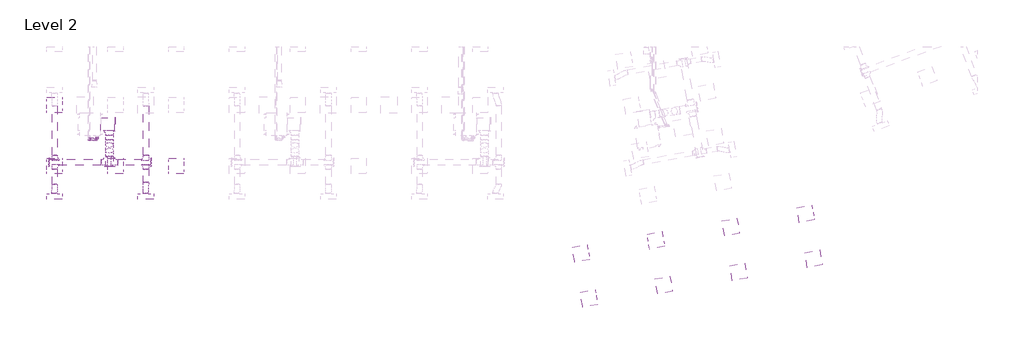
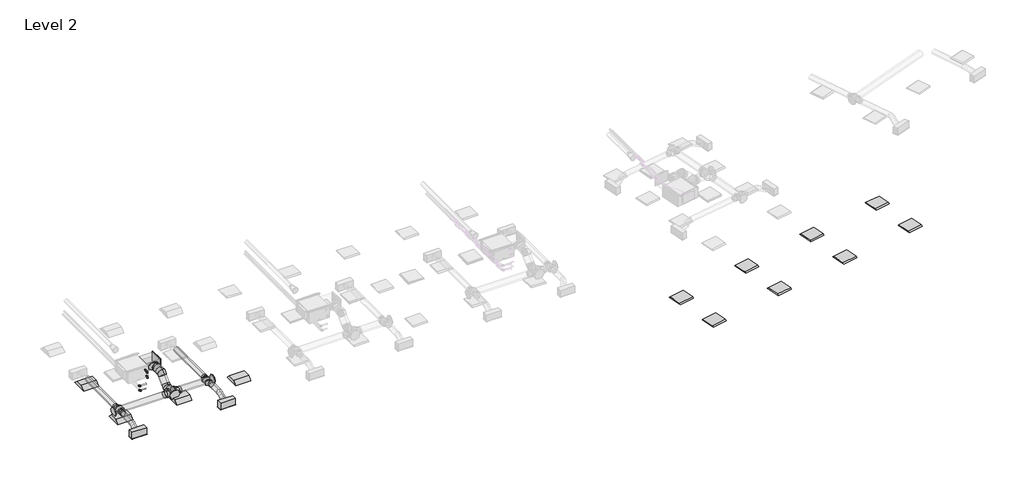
# One storey, part 1 of 26: 13 duct fittings, 12 duct segments, 12 light fixtures, 6 pipe fittings, 4 pipe segments, 2 air terminals.
"""IFC4 building model written with IfcOpenShell, lengths in millimetres."""

from ifc_helpers import new_model, si_unit, point, frame, frame_2d, origin, place, context, project, spatial, polyline, circle_curve, ellipse_curve, trimmed, segment, composite_curve, outline, extrude, transform, mapped, element, save
from ifc_brep_helpers import plane_surface, cylinder_surface, advanced_brep
from components import supply_diffuser_with_plenum_linear_slot_hosted_2b730595, dw144_rectangular_blank_end_standard_8fde7d16, dw144_round_blank_end_standard_f82b0856, dw144_round_blank_end_standard_9aa061e7, dw144_round_segmented_bend_slip_joint_standard_8b80c5ae, dw144_round_shoe_branch_slip_joint1_standard_2_15a2edd8, dw144_round_shoe_branch_slip_joint1_standard_2_559552f4, dw144_round_shoe_branch_slip_joint1_standard_2_7ba9e4ed, dw144_round_shoe_branch_slip_joint1_standard_2_67b64720, light_fixture_1c7c1157, light_fixture_b730b5ca, plain_recessed_lighting_fixture_2x2_277_de26a1e5, elbow_threaded_gmi_standard_b4aa7741, socket_reducing_threaded_gmi_standard_0a4076b8

model = new_model("IFC4")

# Units and contexts
model_context = context("Model", 3, world=origin())
ifc_project = project(units=[si_unit("LENGTHUNIT", "METRE", prefix="MILLI")], contexts=[model_context])

# Site, building, storey
site = spatial("IfcSite", under=ifc_project)
building = spatial("IfcBuilding", under=site)
storey = spatial("IfcBuildingStorey", under=building, Name="Level 2", Elevation=7800.0)

# Air terminals
placement = place(None, origin())
supply_diffuser_with_plenum_linear_slot_hosted_shape = supply_diffuser_with_plenum_linear_slot_hosted_2b730595(model_context)
element("IfcAirTerminal", 1, ObjectType="Supply Diffuser with Plenum - Linear Slot - Hosted : 24\" x 8\"-200 In Inlet  4-Slot", at=placement, inside=storey, context=model_context, shape_type="MappedRepresentation", body=[
    mapped(supply_diffuser_with_plenum_linear_slot_hosted_shape, transform((9162.2000027, 963.2000004, 10600.0), x_axis=(1.0, 0.0, 0.0), y_axis=(0.0, -1.0, 0.0), z_axis=(0.0, 0.0, -1.0))),
])
element("IfcAirTerminal", 2, ObjectType="Supply Diffuser with Plenum - Linear Slot - Hosted : 24\" x 8\"-200 In Inlet  4-Slot", at=placement, inside=storey, context=model_context, shape_type="MappedRepresentation", body=[
    mapped(supply_diffuser_with_plenum_linear_slot_hosted_shape, transform((12762.2000027, 963.2000004, 10600.0), x_axis=(1.0, 0.0, 0.0), y_axis=(0.0, -1.0, 0.0), z_axis=(0.0, 0.0, -1.0))),
])

# Duct fittings
dw144_rectangular_blank_end_standard_shape = dw144_rectangular_blank_end_standard_8fde7d16(model_context)
element("IfcDuctFitting", 3, ObjectType="DW144 Rectangular Blank End : Standard", at=placement, inside=storey, context=model_context, shape_type="MappedRepresentation", body=[
    mapped(dw144_rectangular_blank_end_standard_shape, transform((11546.2561025, 3806.0000004, 11276.3911538), x_axis=(1.0, 0.0, 0.0), y_axis=(0.0, 1.0, 0.0), z_axis=(0.0, 0.0, 1.0))),
])
dw144_round_blank_end_standard_shape = dw144_round_blank_end_standard_f82b0856(model_context)
element("IfcDuctFitting", 4, ObjectType="DW144 Round Blank End : Standard", at=placement, inside=storey, context=model_context, shape_type="MappedRepresentation", body=[
    mapped(dw144_round_blank_end_standard_shape, transform((11331.4561025, 2142.9916128, 10872.2088531), x_axis=(0.0, -1.0, 0.0), y_axis=(1.0, 0.0, 0.0), z_axis=(0.0, 0.0, 1.0))),
])
dw144_round_blank_end_standard_2_shape = dw144_round_blank_end_standard_9aa061e7(model_context)
element("IfcDuctFitting", 5, ObjectType="DW144 Round Blank End : Standard", at=placement, inside=storey, context=model_context, shape_type="MappedRepresentation", body=[
    mapped(dw144_round_blank_end_standard_2_shape, transform((12961.4561025, 2306.5018192, 10872.2088531), x_axis=(1.0, 0.0, 0.0), y_axis=(0.0, 1.0, 0.0), z_axis=(0.0, 0.0, 1.0))),
])
element("IfcDuctFitting", 6, ObjectType="DW144 Round Blank End : Standard", at=placement, inside=storey, context=model_context, shape_type="MappedRepresentation", body=[
    mapped(dw144_round_blank_end_standard_2_shape, transform((8961.4561025, 2306.5018192, 10872.2088531), x_axis=(-1.0, 0.0, 0.0), y_axis=(0.0, -1.0, 0.0), z_axis=(0.0, 0.0, 1.0))),
])
dw144_round_segmented_bend_slip_joint_standard_shape = dw144_round_segmented_bend_slip_joint_standard_8b80c5ae(model_context)
element("IfcDuctFitting", 7, ObjectType="DW144 Round Segmented Bend - Slip Joint : Standard", at=placement, inside=storey, context=model_context, shape_type="MappedRepresentation", body=[
    mapped(dw144_round_segmented_bend_slip_joint_standard_shape, transform((11331.4561025, 2678.6338536, 10872.2088531), x_axis=(0.0, -0.7071067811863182, -0.7071067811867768), y_axis=(0.0, 0.7071067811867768, -0.7071067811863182), z_axis=(1.0, 0.0, 0.0))),
])
element("IfcDuctFitting", 8, ObjectType="DW144 Round Segmented Bend - Slip Joint : Standard", at=placement, inside=storey, context=model_context, shape_type="MappedRepresentation", body=[
    mapped(dw144_round_segmented_bend_slip_joint_standard_shape, transform((11331.4561025, 3076.0000004, 11269.575), x_axis=(0.0, -1.0, 0.0), y_axis=(0.0, 0.0, 1.0), z_axis=(-1.0, 0.0, 0.0))),
])
dw144_round_shoe_branch_slip_joint1_standard_2_shape = dw144_round_shoe_branch_slip_joint1_standard_2_15a2edd8(model_context)
element("IfcDuctFitting", 9, ObjectType="DW144 Round Shoe Branch - Slip Joint1 : Standard 2", at=placement, inside=storey, context=model_context, shape_type="MappedRepresentation", body=[
    mapped(dw144_round_shoe_branch_slip_joint1_standard_2_shape, transform((9173.9000022, 2181.5018192, 10872.2088531), x_axis=(0.0, -1.0, 0.0), y_axis=(-1.0, 0.0, 0.0), z_axis=(0.0, 0.0, -1.0))),
])
element("IfcDuctFitting", 10, ObjectType="DW144 Round Shoe Branch - Slip Joint1 : Standard 2", at=placement, inside=storey, context=model_context, shape_type="MappedRepresentation", body=[
    mapped(dw144_round_shoe_branch_slip_joint1_standard_2_shape, transform((9173.9000022, 2431.5018192, 10872.2088531), x_axis=(0.0, 1.0, 0.0), y_axis=(-1.0, 0.0, 0.0), z_axis=(0.0, 0.0, 1.0))),
])
dw144_round_shoe_branch_slip_joint1_standard_2_2_shape = dw144_round_shoe_branch_slip_joint1_standard_2_559552f4(model_context)
element("IfcDuctFitting", 11, ObjectType="DW144 Round Shoe Branch - Slip Joint1 : Standard 2", at=placement, inside=storey, context=model_context, shape_type="MappedRepresentation", body=[
    mapped(dw144_round_shoe_branch_slip_joint1_standard_2_2_shape, transform((12773.9000022, 2181.5018192, 10872.2088531), x_axis=(0.0, -1.0, 0.0), y_axis=(-1.0, 0.0, 0.0), z_axis=(0.0, 0.0, -1.0))),
])
element("IfcDuctFitting", 12, ObjectType="DW144 Round Shoe Branch - Slip Joint1 : Standard 2", at=placement, inside=storey, context=model_context, shape_type="MappedRepresentation", body=[
    mapped(dw144_round_shoe_branch_slip_joint1_standard_2_2_shape, transform((12773.9000022, 2431.5018192, 10872.2088531), x_axis=(0.0, 1.0, 0.0), y_axis=(-1.0, 0.0, 0.0), z_axis=(0.0, 0.0, 1.0))),
])
dw144_round_shoe_branch_slip_joint1_standard_2_3_shape = dw144_round_shoe_branch_slip_joint1_standard_2_7ba9e4ed(model_context)
element("IfcDuctFitting", 13, ObjectType="DW144 Round Shoe Branch - Slip Joint1 : Standard 2", at=placement, inside=storey, context=model_context, shape_type="MappedRepresentation", body=[
    mapped(dw144_round_shoe_branch_slip_joint1_standard_2_3_shape, transform((11331.4561025, 3556.0000004, 11269.575), x_axis=(0.0, -1.0, 0.0), y_axis=(-1.0, 0.0, 0.0), z_axis=(0.0, 0.0, -1.0))),
])
dw144_round_shoe_branch_slip_joint1_standard_2_4_shape = dw144_round_shoe_branch_slip_joint1_standard_2_67b64720(model_context)
element("IfcDuctFitting", 14, ObjectType="DW144 Round Shoe Branch - Slip Joint1 : Standard 2", at=placement, inside=storey, context=model_context, shape_type="MappedRepresentation", body=[
    mapped(dw144_round_shoe_branch_slip_joint1_standard_2_4_shape, transform((11481.4561025, 2306.5018192, 10872.2088531), x_axis=(1.0, 0.0, 0.0), y_axis=(0.0, -1.0, 0.0), z_axis=(0.0, 0.0, -1.0))),
])
element("IfcDuctFitting", 15, ObjectType="DW144 Round Shoe Branch - Slip Joint1 : Standard 2", at=placement, inside=storey, context=model_context, shape_type="MappedRepresentation", body=[
    mapped(dw144_round_shoe_branch_slip_joint1_standard_2_4_shape, transform((11181.4561025, 2306.5018192, 10872.2088531), x_axis=(-1.0, 0.0, 0.0), y_axis=(0.0, -1.0, 0.0), z_axis=(0.0, 0.0, 1.0))),
])

# Duct segments
element("IfcDuctSegment", 16, ObjectType="DW144 Flanged Med Radius Bend / Shoe Branch", at=placement, inside=storey, context=model_context, shape_type="SweptSolid", body=[
    extrude(outline(polyline([(10993.0441119, 3556.0000004), (10993.0441119, 4056.0000004), (11546.2561025, 4056.0000004), (11546.2561025, 3556.0000004), (10993.0441119, 3556.0000004)])), frame((0.0, 0.0, 11101.3911538), z_axis=(0.0, 0.0, 1.0), x_axis=(1.0, 0.0, 0.0)), (0.0, 0.0, 1.0), 350.0),
])
element("IfcDuctSegment", 17, ObjectType="DW144 Segmented Bend / Shoe Branch", at=placement, inside=storey, context=model_context, shape_type="SweptSolid", body=[
    extrude(outline(composite_curve([segment(trimmed(circle_curve(frame_2d((11269.575, 11331.4561025)), 150.0), [point((11269.575, 11181.4561025))], [point((11119.575, 11331.4561025))], False, "CARTESIAN"), True, "CONTINUOUS"), segment(trimmed(circle_curve(frame_2d((11269.575, 11331.4561025)), 150.0), [point((11119.575, 11331.4561025))], [point((11269.575, 11481.4561025))], False, "CARTESIAN"), True, "CONTINUOUS"), segment(trimmed(circle_curve(frame_2d((11269.575, 11331.4561025)), 150.0), [point((11269.575, 11481.4561025))], [point((11419.575, 11331.4561025))], False, "CARTESIAN"), True, "CONTINUOUS"), segment(trimmed(circle_curve(frame_2d((11269.575, 11331.4561025)), 150.0), [point((11419.575, 11331.4561025))], [point((11269.575, 11181.4561025))], False, "CARTESIAN"), True, "CONTINUOUS")], self_intersect=False)), frame((0.0, 3200.2640691, 0.0), z_axis=(0.0, 1.0, 0.0), x_axis=(0.0, 0.0, 1.0)), (0.0, 0.0, 1.0), 180.7359313),
])
element("IfcDuctSegment", 18, ObjectType="DW144 Segmented Bend / Shoe Branch", at=placement, inside=storey, context=model_context, shape_type="SweptSolid", body=[
    extrude(outline(composite_curve([segment(trimmed(circle_curve(frame_2d((10872.2088531, 11331.4561025)), 150.0), [point((10872.2088531, 11181.4561025))], [point((10722.2088531, 11331.4561025))], False, "CARTESIAN"), True, "CONTINUOUS"), segment(trimmed(circle_curve(frame_2d((10872.2088531, 11331.4561025)), 150.0), [point((10722.2088531, 11331.4561025))], [point((10872.2088531, 11481.4561025))], False, "CARTESIAN"), True, "CONTINUOUS"), segment(trimmed(circle_curve(frame_2d((10872.2088531, 11331.4561025)), 150.0), [point((10872.2088531, 11481.4561025))], [point((11022.2088531, 11331.4561025))], False, "CARTESIAN"), True, "CONTINUOUS"), segment(trimmed(circle_curve(frame_2d((10872.2088531, 11331.4561025)), 150.0), [point((11022.2088531, 11331.4561025))], [point((10872.2088531, 11181.4561025))], False, "CARTESIAN"), True, "CONTINUOUS")], self_intersect=False)), frame((0.0, 2142.9916128, 0.0), z_axis=(0.0, 1.0, 0.0), x_axis=(0.0, 0.0, 1.0)), (0.0, 0.0, 1.0), 411.3781721),
])
element("IfcDuctSegment", 19, ObjectType="DW144 Segmented Bend / Shoe Branch", at=placement, inside=storey, context=model_context, shape_type="SweptSolid", body=[
    extrude(outline(composite_curve([segment(trimmed(circle_curve(frame_2d((0.0, -150.0)), 150.0), [point((-150.0, -150.0))], [point((0.0, 0.0))], False, "CARTESIAN"), True, "CONTINUOUS"), segment(trimmed(circle_curve(frame_2d((0.0, -150.0)), 150.0), [point((0.0, 0.0))], [point((150.0, -150.0))], False, "CARTESIAN"), True, "CONTINUOUS"), segment(trimmed(circle_curve(frame_2d((0.0, -150.0)), 150.0), [point((150.0, -150.0))], [point((0.0, -300.0))], False, "CARTESIAN"), True, "CONTINUOUS"), segment(trimmed(circle_curve(frame_2d((0.0, -150.0)), 150.0), [point((0.0, -300.0))], [point((-150.0, -150.0))], False, "CARTESIAN"), True, "CONTINUOUS")], self_intersect=False)), frame((11331.4561025, 2872.5678364, 10854.0108016), z_axis=(0.0, 0.7071067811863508, 0.7071067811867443), x_axis=(1.0, 0.0, 0.0)), (0.0, 0.0, 1.0), 313.4324567),
])
element("IfcDuctSegment", 20, ObjectType="DW144 Segmented Bend / Shoe Branch", at=placement, inside=storey, context=model_context, shape_type="SweptSolid", body=[
    extrude(outline(composite_curve([segment(trimmed(circle_curve(frame_2d((2306.5018192, 10872.2088531)), 125.0), [point((2181.5018192, 10872.2088531))], [point((2306.5018192, 10997.2088531))], False, "CARTESIAN"), True, "CONTINUOUS"), segment(trimmed(circle_curve(frame_2d((2306.5018192, 10872.2088531)), 125.0), [point((2306.5018192, 10997.2088531))], [point((2431.5018192, 10872.2088531))], False, "CARTESIAN"), True, "CONTINUOUS"), segment(trimmed(circle_curve(frame_2d((2306.5018192, 10872.2088531)), 125.0), [point((2431.5018192, 10872.2088531))], [point((2306.5018192, 10747.2088531))], False, "CARTESIAN"), True, "CONTINUOUS"), segment(trimmed(circle_curve(frame_2d((2306.5018192, 10872.2088531)), 125.0), [point((2306.5018192, 10747.2088531))], [point((2181.5018192, 10872.2088531))], False, "CARTESIAN"), True, "CONTINUOUS")], self_intersect=False)), frame((11656.4561025, 0.0, 0.0), z_axis=(1.0, 0.0, 0.0), x_axis=(0.0, 1.0, 0.0)), (0.0, 0.0, 1.0), 1305.0),
])
element("IfcDuctSegment", 21, ObjectType="DW144 Segmented Bend / Shoe Branch", at=placement, inside=storey, context=model_context, shape_type="SweptSolid", body=[
    extrude(outline(composite_curve([segment(trimmed(circle_curve(frame_2d((2306.5018192, 10872.2088531)), 125.0), [point((2431.5018192, 10872.2088531))], [point((2306.5018192, 10747.2088531))], False, "CARTESIAN"), True, "CONTINUOUS"), segment(trimmed(circle_curve(frame_2d((2306.5018192, 10872.2088531)), 125.0), [point((2306.5018192, 10747.2088531))], [point((2181.5018192, 10872.2088531))], False, "CARTESIAN"), True, "CONTINUOUS"), segment(trimmed(circle_curve(frame_2d((2306.5018192, 10872.2088531)), 125.0), [point((2181.5018192, 10872.2088531))], [point((2306.5018192, 10997.2088531))], False, "CARTESIAN"), True, "CONTINUOUS"), segment(trimmed(circle_curve(frame_2d((2306.5018192, 10872.2088531)), 125.0), [point((2306.5018192, 10997.2088531))], [point((2431.5018192, 10872.2088531))], False, "CARTESIAN"), True, "CONTINUOUS")], self_intersect=False)), frame((8961.4561025, 0.0, 0.0), z_axis=(1.0, 0.0, 0.0), x_axis=(0.0, 1.0, 0.0)), (0.0, 0.0, 1.0), 2045.0),
])
element("IfcDuctSegment", 22, ObjectType="DW144 Segmented Bend / Shoe Branch", at=placement, inside=storey, context=model_context, shape_type="SweptSolid", body=[
    extrude(outline(composite_curve([segment(trimmed(circle_curve(frame_2d((10872.2088531, 12773.9000022)), 100.0), [point((10872.2088531, 12673.9000022))], [point((10772.2088531, 12773.9000022))], False, "CARTESIAN"), True, "CONTINUOUS"), segment(trimmed(circle_curve(frame_2d((10872.2088531, 12773.9000022)), 100.0), [point((10772.2088531, 12773.9000022))], [point((10872.2088531, 12873.9000022))], False, "CARTESIAN"), True, "CONTINUOUS"), segment(trimmed(circle_curve(frame_2d((10872.2088531, 12773.9000022)), 100.0), [point((10872.2088531, 12873.9000022))], [point((10972.2088531, 12773.9000022))], False, "CARTESIAN"), True, "CONTINUOUS"), segment(trimmed(circle_curve(frame_2d((10872.2088531, 12773.9000022)), 100.0), [point((10972.2088531, 12773.9000022))], [point((10872.2088531, 12673.9000022))], False, "CARTESIAN"), True, "CONTINUOUS")], self_intersect=False)), frame((0.0, 1521.5018192, 0.0), z_axis=(0.0, 1.0, 0.0), x_axis=(0.0, 0.0, 1.0)), (0.0, 0.0, 1.0), 510.0),
])
element("IfcDuctSegment", 23, ObjectType="DW144 Segmented Bend / Shoe Branch", at=placement, inside=storey, context=model_context, shape_type="SweptSolid", body=[
    extrude(outline(composite_curve([segment(trimmed(circle_curve(frame_2d((10872.2088531, 12773.9000022)), 100.0), [point((10872.2088531, 12873.9000022))], [point((10972.2088531, 12773.9000022))], False, "CARTESIAN"), True, "CONTINUOUS"), segment(trimmed(circle_curve(frame_2d((10872.2088531, 12773.9000022)), 100.0), [point((10972.2088531, 12773.9000022))], [point((10872.2088531, 12673.9000022))], False, "CARTESIAN"), True, "CONTINUOUS"), segment(trimmed(circle_curve(frame_2d((10872.2088531, 12773.9000022)), 100.0), [point((10872.2088531, 12673.9000022))], [point((10772.2088531, 12773.9000022))], False, "CARTESIAN"), True, "CONTINUOUS"), segment(trimmed(circle_curve(frame_2d((10872.2088531, 12773.9000022)), 100.0), [point((10772.2088531, 12773.9000022))], [point((10872.2088531, 12873.9000022))], False, "CARTESIAN"), True, "CONTINUOUS")], self_intersect=False)), frame((0.0, 2581.5018192, 0.0), z_axis=(0.0, 1.0, 0.0), x_axis=(0.0, 0.0, 1.0)), (0.0, 0.0, 1.0), 1950.0),
])
element("IfcDuctSegment", 24, ObjectType="DW144 Segmented Bend / Shoe Branch", at=placement, inside=storey, context=model_context, shape_type="SweptSolid", body=[
    extrude(outline(composite_curve([segment(trimmed(circle_curve(frame_2d((10872.2088531, 9173.9000022)), 100.0), [point((10872.2088531, 9273.9000022))], [point((10972.2088531, 9173.9000022))], False, "CARTESIAN"), True, "CONTINUOUS"), segment(trimmed(circle_curve(frame_2d((10872.2088531, 9173.9000022)), 100.0), [point((10972.2088531, 9173.9000022))], [point((10872.2088531, 9073.9000022))], False, "CARTESIAN"), True, "CONTINUOUS"), segment(trimmed(circle_curve(frame_2d((10872.2088531, 9173.9000022)), 100.0), [point((10872.2088531, 9073.9000022))], [point((10772.2088531, 9173.9000022))], False, "CARTESIAN"), True, "CONTINUOUS"), segment(trimmed(circle_curve(frame_2d((10872.2088531, 9173.9000022)), 100.0), [point((10772.2088531, 9173.9000022))], [point((10872.2088531, 9273.9000022))], False, "CARTESIAN"), True, "CONTINUOUS")], self_intersect=False)), frame((0.0, 1441.5018192, 0.0), z_axis=(0.0, 1.0, 0.0), x_axis=(0.0, 0.0, 1.0)), (0.0, 0.0, 1.0), 590.0),
])
element("IfcDuctSegment", 25, ObjectType="DW144 Segmented Bend / Shoe Branch", at=placement, inside=storey, context=model_context, shape_type="SweptSolid", body=[
    extrude(outline(composite_curve([segment(trimmed(circle_curve(frame_2d((10872.2088531, 9173.9000022)), 100.0), [point((10872.2088531, 9273.9000022))], [point((10972.2088531, 9173.9000022))], False, "CARTESIAN"), True, "CONTINUOUS"), segment(trimmed(circle_curve(frame_2d((10872.2088531, 9173.9000022)), 100.0), [point((10972.2088531, 9173.9000022))], [point((10872.2088531, 9073.9000022))], False, "CARTESIAN"), True, "CONTINUOUS"), segment(trimmed(circle_curve(frame_2d((10872.2088531, 9173.9000022)), 100.0), [point((10872.2088531, 9073.9000022))], [point((10772.2088531, 9173.9000022))], False, "CARTESIAN"), True, "CONTINUOUS"), segment(trimmed(circle_curve(frame_2d((10872.2088531, 9173.9000022)), 100.0), [point((10772.2088531, 9173.9000022))], [point((10872.2088531, 9273.9000022))], False, "CARTESIAN"), True, "CONTINUOUS")], self_intersect=False)), frame((0.0, 2581.5018192, 0.0), z_axis=(0.0, 1.0, 0.0), x_axis=(0.0, 0.0, 1.0)), (0.0, 0.0, 1.0), 1950.0),
])
element("IfcDuctSegment", 26, ObjectType="Flex - Round", at=placement, inside=storey, context=model_context, shape_type="AdvancedBrep", body=[
    advanced_brep(
    [(9273.9000022, 1441.5018192, 10872.2088531), (9173.9000022, 1441.5018192, 10772.2088531), (9073.9000022, 1441.5018192, 10872.2088531), (9173.9000022, 1441.5018192, 10972.2088531), (9273.9000022, 1420.0995917, 10872.2088531), (9173.9000022, 1434.401614, 10772.2088531), (9073.9000022, 1422.6837186, 10872.2088531), (9173.9000022, 1408.3816962, 10972.2088531), (9262.2000027, 1090.2000004, 10754.4), (9162.2000027, 1090.2000004, 10854.4), (9062.2000027, 1090.2000004, 10754.4), (9162.2000027, 1090.2000004, 10654.4), (9272.0161428, 1348.4444846, 10853.2400219), (9172.6330752, 1386.2123534, 10759.4519962), (9072.1276118, 1355.2684822, 10854.3624177), (9171.5106794, 1317.5006134, 10948.1504435), (9267.9561574, 1261.6239384, 10812.3594887), (9168.9949403, 1308.4128474, 10722.8191318), (9068.1438475, 1270.0778812, 10814.2493644), (9167.1050646, 1223.2889723, 10903.7897213), (9263.9723931, 1176.4333374, 10772.2464354), (9164.5893255, 1214.2012062, 10678.4584097), (9064.0838621, 1183.257335, 10773.3688312), (9163.4669297, 1145.4894662, 10867.1568569), (9262.2000027, 1109.0181011, 10754.4), (9162.2000027, 1123.3201234, 10654.4), (9062.2000027, 1111.602228, 10754.4), (9162.2000027, 1097.3002057, 10854.4)],
    [
        (0, 1, circle_curve(frame((9173.9000022, 1441.5018192, 10872.2088531), z_axis=(0.0, 1.0, 0.0), x_axis=(1.0, 0.0, 0.0)), 100.0)),
        (1, 2, circle_curve(frame((9173.9000022, 1441.5018192, 10872.2088531), z_axis=(0.0, 1.0, 0.0), x_axis=(1.0, 0.0, 0.0)), 100.0)),
        (2, 3, circle_curve(frame((9173.9000022, 1441.5018192, 10872.2088531), z_axis=(0.0, 1.0, 0.0), x_axis=(1.0, 0.0, 0.0)), 100.0)),
        (3, 0, circle_curve(frame((9173.9000022, 1441.5018192, 10872.2088531), z_axis=(0.0, 1.0, 0.0), x_axis=(1.0, 0.0, 0.0)), 100.0)),
        (0, 4),
        (4, 5, ellipse_curve(frame((9173.9000022, 1421.3916551, 10872.2088531), z_axis=(0.012811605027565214, 0.9915616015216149, 0.12900175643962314), x_axis=(-0.09799329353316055, 0.12963637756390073, -0.9867075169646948)), 100.8510211, 100.0)),
        (5, 1),
        (5, 6, ellipse_curve(frame((9173.9000022, 1421.3916551, 10872.2088531), z_axis=(0.012811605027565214, 0.9915616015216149, 0.12900175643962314), x_axis=(-0.09799329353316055, 0.12963637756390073, -0.9867075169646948)), 100.8510211, 100.0)),
        (6, 2),
        (6, 7, ellipse_curve(frame((9173.9000022, 1421.3916551, 10872.2088531), z_axis=(0.012811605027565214, 0.9915616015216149, 0.12900175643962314), x_axis=(-0.09799329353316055, 0.12963637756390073, -0.9867075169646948)), 100.8510211, 100.0)),
        (7, 3),
        (7, 4, ellipse_curve(frame((9173.9000022, 1421.3916551, 10872.2088531), z_axis=(0.012811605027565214, 0.9915616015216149, 0.12900175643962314), x_axis=(-0.09799329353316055, 0.12963637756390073, -0.9867075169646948)), 100.8510211, 100.0)),
        (8, 9, circle_curve(frame((9162.2000027, 1090.2000004, 10754.4), z_axis=(0.0, -1.0, 0.0), x_axis=(1.0, 0.0, 0.0)), 100.0)),
        (9, 10, circle_curve(frame((9162.2000027, 1090.2000004, 10754.4), z_axis=(0.0, -1.0, 0.0), x_axis=(1.0, 0.0, 0.0)), 100.0)),
        (10, 11, circle_curve(frame((9162.2000027, 1090.2000004, 10754.4), z_axis=(0.0, -1.0, 0.0), x_axis=(1.0, 0.0, 0.0)), 100.0)),
        (11, 8, circle_curve(frame((9162.2000027, 1090.2000004, 10754.4), z_axis=(0.0, -1.0, 0.0), x_axis=(1.0, 0.0, 0.0)), 100.0)),
        (4, 12),
        (12, 13, ellipse_curve(frame((9172.0718773, 1351.8564834, 10853.8012198), z_axis=(0.03397887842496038, 0.9390352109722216, 0.3421378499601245), x_axis=(-0.09280225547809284, 0.34382098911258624, -0.9344382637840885)), 100.4152859, 100.0)),
        (13, 5),
        (13, 14, ellipse_curve(frame((9172.0718773, 1351.8564834, 10853.8012198), z_axis=(0.03397887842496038, 0.9390352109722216, 0.3421378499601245), x_axis=(-0.09280225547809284, 0.34382098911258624, -0.9344382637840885)), 100.4152859, 100.0)),
        (14, 6),
        (14, 15, ellipse_curve(frame((9172.0718773, 1351.8564834, 10853.8012198), z_axis=(0.03397887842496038, 0.9390352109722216, 0.3421378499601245), x_axis=(-0.09280225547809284, 0.34382098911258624, -0.9344382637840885)), 100.4152859, 100.0)),
        (15, 7),
        (15, 12, ellipse_curve(frame((9172.0718773, 1351.8564834, 10853.8012198), z_axis=(0.03397887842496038, 0.9390352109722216, 0.3421378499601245), x_axis=(-0.09280225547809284, 0.34382098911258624, -0.9344382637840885)), 100.4152859, 100.0)),
        (12, 16),
        (16, 17, circle_curve(frame((9168.0500024, 1265.8509098, 10813.3044266), z_axis=(0.04226971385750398, 0.9039144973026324, 0.4256193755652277), x_axis=(0.9990615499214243, -0.042269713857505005, -0.009449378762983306)), 100.0)),
        (17, 13),
        (17, 18, circle_curve(frame((9168.0500024, 1265.8509098, 10813.3044266), z_axis=(0.04226971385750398, 0.9039144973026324, 0.4256193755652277), x_axis=(0.9990615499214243, -0.042269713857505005, -0.009449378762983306)), 100.0)),
        (18, 14),
        (18, 19, circle_curve(frame((9168.0500024, 1265.8509098, 10813.3044266), z_axis=(0.04226971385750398, 0.9039144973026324, 0.4256193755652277), x_axis=(0.9990615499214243, -0.042269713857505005, -0.009449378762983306)), 100.0)),
        (19, 15),
        (19, 16, circle_curve(frame((9168.0500024, 1265.8509098, 10813.3044266), z_axis=(0.04226971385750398, 0.9039144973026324, 0.4256193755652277), x_axis=(0.9990615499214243, -0.042269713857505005, -0.009449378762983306)), 100.0)),
        (16, 20),
        (20, 21, ellipse_curve(frame((9164.0281276, 1179.8453362, 10772.8076333), z_axis=(0.033978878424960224, 0.9390352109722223, 0.3421378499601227), x_axis=(0.09280225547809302, -0.3438209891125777, 0.9344382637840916)), 100.4152859, 100.0)),
        (21, 17),
        (21, 22, ellipse_curve(frame((9164.0281276, 1179.8453362, 10772.8076333), z_axis=(0.033978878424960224, 0.9390352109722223, 0.3421378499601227), x_axis=(0.09280225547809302, -0.3438209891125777, 0.9344382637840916)), 100.4152859, 100.0)),
        (22, 18),
        (22, 23, ellipse_curve(frame((9164.0281276, 1179.8453362, 10772.8076333), z_axis=(0.033978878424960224, 0.9390352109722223, 0.3421378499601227), x_axis=(0.09280225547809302, -0.3438209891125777, 0.9344382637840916)), 100.4152859, 100.0)),
        (23, 19),
        (23, 20, ellipse_curve(frame((9164.0281276, 1179.8453362, 10772.8076333), z_axis=(0.033978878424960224, 0.9390352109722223, 0.3421378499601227), x_axis=(0.09280225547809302, -0.3438209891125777, 0.9344382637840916)), 100.4152859, 100.0)),
        (20, 24),
        (24, 25, ellipse_curve(frame((9162.2000027, 1110.3101645, 10754.4), z_axis=(0.01281160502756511, 0.9915616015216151, 0.12900175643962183), x_axis=(0.09799329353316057, -0.12963637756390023, 0.9867075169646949)), 100.8510211, 100.0)),
        (25, 21),
        (25, 26, ellipse_curve(frame((9162.2000027, 1110.3101645, 10754.4), z_axis=(0.01281160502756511, 0.9915616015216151, 0.12900175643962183), x_axis=(0.09799329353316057, -0.12963637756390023, 0.9867075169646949)), 100.8510211, 100.0)),
        (26, 22),
        (26, 27, ellipse_curve(frame((9162.2000027, 1110.3101645, 10754.4), z_axis=(0.01281160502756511, 0.9915616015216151, 0.12900175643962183), x_axis=(0.09799329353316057, -0.12963637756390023, 0.9867075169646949)), 100.8510211, 100.0)),
        (27, 23),
        (27, 24, ellipse_curve(frame((9162.2000027, 1110.3101645, 10754.4), z_axis=(0.01281160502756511, 0.9915616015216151, 0.12900175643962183), x_axis=(0.09799329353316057, -0.12963637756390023, 0.9867075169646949)), 100.8510211, 100.0)),
        (24, 8),
        (11, 25),
        (10, 26),
        (9, 27),
    ],
    [
        plane_surface(frame((9073.9000022, 1441.5018192, 10872.2088531), z_axis=(0.0, 1.0, 0.0), x_axis=(0.0, 0.0, -1.0))),
        cylinder_surface(frame((9173.9000022, 1441.5018192, 10872.2088531), z_axis=(0.0, 1.0, 0.0), x_axis=(1.0, 0.0, 0.0)), 100.0),
        plane_surface(frame((9062.2000027, 1090.2000004, 10754.4), z_axis=(0.0, -1.0, 0.0), x_axis=(0.0, 0.0, -1.0))),
        cylinder_surface(frame((9173.9000022, 1421.3916551, 10872.2088531), z_axis=(0.025406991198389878, 0.9663888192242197, 0.25582637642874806), x_axis=(0.9996717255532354, -0.025406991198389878, -0.003305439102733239)), 100.0),
        cylinder_surface(frame((9172.0718773, 1351.8564834, 10853.8012198), z_axis=(0.04226971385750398, 0.9039144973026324, 0.4256193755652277), x_axis=(0.9990615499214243, -0.042269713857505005, -0.009449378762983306)), 100.0),
        cylinder_surface(frame((9168.0500024, 1265.8509098, 10813.3044266), z_axis=(0.042269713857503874, 0.903914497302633, 0.4256193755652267), x_axis=(0.9990615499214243, -0.042269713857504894, -0.009449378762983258)), 100.0),
        cylinder_surface(frame((9164.0281276, 1179.8453362, 10772.8076333), z_axis=(0.025406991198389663, 0.9663888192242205, 0.2558263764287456), x_axis=(0.9996717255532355, -0.02540699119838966, -0.0033054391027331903)), 100.0),
        cylinder_surface(frame((9162.2000027, 1110.3101645, 10754.4), z_axis=(0.0, 1.0, 0.0), x_axis=(1.0, 0.0, 0.0)), 100.0),
    ],
    [
        (0, [[1, 2, 3, 4]]),
        (1, [[-1, 5, 6, 7]]),
        (1, [[-2, -7, 8, 9]]),
        (1, [[-3, -9, 10, 11]]),
        (1, [[-4, -11, 12, -5]]),
        (2, [[13, 14, 15, 16]]),
        (3, [[-6, 17, 18, 19]]),
        (3, [[-8, -19, 20, 21]]),
        (3, [[-10, -21, 22, 23]]),
        (3, [[-12, -23, 24, -17]]),
        (4, [[-18, 25, 26, 27]]),
        (4, [[-20, -27, 28, 29]]),
        (4, [[-22, -29, 30, 31]]),
        (4, [[-24, -31, 32, -25]]),
        (5, [[-26, 33, 34, 35]]),
        (5, [[-28, -35, 36, 37]]),
        (5, [[-30, -37, 38, 39]]),
        (5, [[-32, -39, 40, -33]]),
        (6, [[-34, 41, 42, 43]]),
        (6, [[-36, -43, 44, 45]]),
        (6, [[-38, -45, 46, 47]]),
        (6, [[-40, -47, 48, -41]]),
        (7, [[-42, 49, -16, 50]]),
        (7, [[-44, -50, -15, 51]]),
        (7, [[-46, -51, -14, 52]]),
        (7, [[-48, -52, -13, -49]]),
    ],
),
])
element("IfcDuctSegment", 27, ObjectType="Flex - Round", at=placement, inside=storey, context=model_context, shape_type="AdvancedBrep", body=[
    advanced_brep(
    [(12873.9000022, 1521.5018192, 10872.2088531), (12773.9000022, 1521.5018192, 10772.2088531), (12673.9000022, 1521.5018192, 10872.2088531), (12773.9000022, 1521.5018192, 10972.2088531), (12873.9000022, 1503.923456, 10872.2088531), (12773.9000022, 1514.7293967, 10772.2088531), (12673.9000022, 1505.8759017, 10872.2088531), (12773.9000022, 1495.069961, 10972.2088531), (12862.2000027, 1090.2000004, 10754.4), (12762.2000027, 1090.2000004, 10854.4), (12662.2000027, 1090.2000004, 10754.4), (12762.2000027, 1090.2000004, 10654.4), (12872.036853, 1409.4281644, 10853.4485558), (12772.4245413, 1439.896897, 10757.3522405), (12672.1069016, 1414.9333349, 10854.1538838), (12771.7192133, 1384.4646022, 10950.2501991), (12867.9854761, 1302.3183528, 10812.6547024), (12768.6997266, 1341.420697, 10719.8465853), (12668.1145288, 1309.3834669, 10813.9541507), (12767.4002783, 1270.2811227, 10906.7622679), (12863.9931033, 1196.7684848, 10772.4549693), (12764.3807916, 1227.2372174, 10676.358654), (12664.0631519, 1202.2736553, 10773.1602973), (12763.6754636, 1171.8049226, 10869.2566126), (12862.2000027, 1105.8259179, 10754.4), (12762.2000027, 1116.6318586, 10654.4), (12662.2000027, 1107.7783636, 10754.4), (12762.2000027, 1096.9724229, 10854.4)],
    [
        (0, 1, circle_curve(frame((12773.9000022, 1521.5018192, 10872.2088531), z_axis=(0.0, 1.0, 0.0), x_axis=(1.0, 0.0, 0.0)), 100.0)),
        (1, 2, circle_curve(frame((12773.9000022, 1521.5018192, 10872.2088531), z_axis=(0.0, 1.0, 0.0), x_axis=(1.0, 0.0, 0.0)), 100.0)),
        (2, 3, circle_curve(frame((12773.9000022, 1521.5018192, 10872.2088531), z_axis=(0.0, 1.0, 0.0), x_axis=(1.0, 0.0, 0.0)), 100.0)),
        (3, 0, circle_curve(frame((12773.9000022, 1521.5018192, 10872.2088531), z_axis=(0.0, 1.0, 0.0), x_axis=(1.0, 0.0, 0.0)), 100.0)),
        (0, 4),
        (4, 5, ellipse_curve(frame((12773.9000022, 1504.8996789, 10872.2088531), z_axis=(0.009714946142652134, 0.995156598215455, 0.09782108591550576), x_axis=(-0.09834857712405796, 0.0983023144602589, -0.9902849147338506)), 100.4866974, 100.0)),
        (5, 1),
        (5, 6, ellipse_curve(frame((12773.9000022, 1504.8996789, 10872.2088531), z_axis=(0.009714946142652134, 0.995156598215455, 0.09782108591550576), x_axis=(-0.09834857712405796, 0.0983023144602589, -0.9902849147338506)), 100.4866974, 100.0)),
        (6, 2),
        (6, 7, ellipse_curve(frame((12773.9000022, 1504.8996789, 10872.2088531), z_axis=(0.009714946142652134, 0.995156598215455, 0.09782108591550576), x_axis=(-0.09834857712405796, 0.0983023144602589, -0.9902849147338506)), 100.4866974, 100.0)),
        (7, 3),
        (7, 4, ellipse_curve(frame((12773.9000022, 1504.8996789, 10872.2088531), z_axis=(0.009714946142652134, 0.995156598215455, 0.09782108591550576), x_axis=(-0.09834857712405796, 0.0983023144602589, -0.9902849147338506)), 100.4866974, 100.0)),
        (8, 9, circle_curve(frame((12762.2000027, 1090.2000004, 10754.4), z_axis=(0.0, -1.0, 0.0), x_axis=(1.0, 0.0, 0.0)), 100.0)),
        (9, 10, circle_curve(frame((12762.2000027, 1090.2000004, 10754.4), z_axis=(0.0, -1.0, 0.0), x_axis=(1.0, 0.0, 0.0)), 100.0)),
        (10, 11, circle_curve(frame((12762.2000027, 1090.2000004, 10754.4), z_axis=(0.0, -1.0, 0.0), x_axis=(1.0, 0.0, 0.0)), 100.0)),
        (11, 8, circle_curve(frame((12762.2000027, 1090.2000004, 10754.4), z_axis=(0.0, -1.0, 0.0), x_axis=(1.0, 0.0, 0.0)), 100.0)),
        (4, 12),
        (12, 13, ellipse_curve(frame((12772.0718773, 1412.1807496, 10853.8012198), z_axis=(0.027428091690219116, 0.9607153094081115, 0.2761771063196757), x_axis=(-0.09494483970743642, 0.2775357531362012, -0.9560122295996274)), 100.3564262, 100.0)),
        (13, 5),
        (13, 14, ellipse_curve(frame((12772.0718773, 1412.1807496, 10853.8012198), z_axis=(0.027428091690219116, 0.9607153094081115, 0.2761771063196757), x_axis=(-0.09494483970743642, 0.2775357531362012, -0.9560122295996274)), 100.3564262, 100.0)),
        (14, 6),
        (14, 15, ellipse_curve(frame((12772.0718773, 1412.1807496, 10853.8012198), z_axis=(0.027428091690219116, 0.9607153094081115, 0.2761771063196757), x_axis=(-0.09494483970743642, 0.2775357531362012, -0.9560122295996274)), 100.3564262, 100.0)),
        (15, 7),
        (15, 12, ellipse_curve(frame((12772.0718773, 1412.1807496, 10853.8012198), z_axis=(0.027428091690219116, 0.9607153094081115, 0.2761771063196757), x_axis=(-0.09494483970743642, 0.2775357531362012, -0.9560122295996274)), 100.3564262, 100.0)),
        (12, 16),
        (16, 17, circle_curve(frame((12768.0500024, 1305.8509098, 10813.3044266), z_axis=(0.03532557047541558, 0.933933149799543, 0.35569787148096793), x_axis=(0.9993547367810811, -0.03532557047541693, -0.006497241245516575)), 100.0)),
        (17, 13),
        (17, 18, circle_curve(frame((12768.0500024, 1305.8509098, 10813.3044266), z_axis=(0.03532557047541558, 0.933933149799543, 0.35569787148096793), x_axis=(0.9993547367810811, -0.03532557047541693, -0.006497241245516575)), 100.0)),
        (18, 14),
        (18, 19, circle_curve(frame((12768.0500024, 1305.8509098, 10813.3044266), z_axis=(0.03532557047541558, 0.933933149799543, 0.35569787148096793), x_axis=(0.9993547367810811, -0.03532557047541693, -0.006497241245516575)), 100.0)),
        (19, 15),
        (19, 16, circle_curve(frame((12768.0500024, 1305.8509098, 10813.3044266), z_axis=(0.03532557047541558, 0.933933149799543, 0.35569787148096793), x_axis=(0.9993547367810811, -0.03532557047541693, -0.006497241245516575)), 100.0)),
        (16, 20),
        (20, 21, ellipse_curve(frame((12764.0281276, 1199.52107, 10772.8076333), z_axis=(0.027428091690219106, 0.9607153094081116, 0.2761771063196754), x_axis=(0.0949448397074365, -0.2775357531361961, 0.9560122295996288)), 100.3564262, 100.0)),
        (21, 17),
        (21, 22, ellipse_curve(frame((12764.0281276, 1199.52107, 10772.8076333), z_axis=(0.027428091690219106, 0.9607153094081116, 0.2761771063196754), x_axis=(0.0949448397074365, -0.2775357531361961, 0.9560122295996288)), 100.3564262, 100.0)),
        (22, 18),
        (22, 23, ellipse_curve(frame((12764.0281276, 1199.52107, 10772.8076333), z_axis=(0.027428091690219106, 0.9607153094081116, 0.2761771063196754), x_axis=(0.0949448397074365, -0.2775357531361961, 0.9560122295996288)), 100.3564262, 100.0)),
        (23, 19),
        (23, 20, ellipse_curve(frame((12764.0281276, 1199.52107, 10772.8076333), z_axis=(0.027428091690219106, 0.9607153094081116, 0.2761771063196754), x_axis=(0.0949448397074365, -0.2775357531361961, 0.9560122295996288)), 100.3564262, 100.0)),
        (20, 24),
        (24, 25, ellipse_curve(frame((12762.2000027, 1106.8021408, 10754.4), z_axis=(0.009714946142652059, 0.9951565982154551, 0.09782108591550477), x_axis=(0.09834857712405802, -0.09830231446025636, 0.9902849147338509)), 100.4866974, 100.0)),
        (25, 21),
        (25, 26, ellipse_curve(frame((12762.2000027, 1106.8021408, 10754.4), z_axis=(0.009714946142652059, 0.9951565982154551, 0.09782108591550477), x_axis=(0.09834857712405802, -0.09830231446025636, 0.9902849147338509)), 100.4866974, 100.0)),
        (26, 22),
        (26, 27, ellipse_curve(frame((12762.2000027, 1106.8021408, 10754.4), z_axis=(0.009714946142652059, 0.9951565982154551, 0.09782108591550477), x_axis=(0.09834857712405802, -0.09830231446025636, 0.9902849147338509)), 100.4866974, 100.0)),
        (27, 23),
        (27, 24, ellipse_curve(frame((12762.2000027, 1106.8021408, 10754.4), z_axis=(0.009714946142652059, 0.9951565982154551, 0.09782108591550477), x_axis=(0.09834857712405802, -0.09830231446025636, 0.9902849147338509)), 100.4866974, 100.0)),
        (24, 8),
        (11, 25),
        (10, 26),
        (9, 27),
    ],
    [
        plane_surface(frame((12673.9000022, 1521.5018192, 10872.2088531), z_axis=(0.0, 1.0, 0.0), x_axis=(0.0, 0.0, -1.0))),
        cylinder_surface(frame((12773.9000022, 1521.5018192, 10872.2088531), z_axis=(0.0, 1.0, 0.0), x_axis=(1.0, 0.0, 0.0)), 100.0),
        plane_surface(frame((12662.2000027, 1090.2000004, 10754.4), z_axis=(0.0, -1.0, 0.0), x_axis=(0.0, 0.0, -1.0))),
        cylinder_surface(frame((12773.9000022, 1504.8996789, 10872.2088531), z_axis=(0.01933578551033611, 0.9806733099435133, 0.19469459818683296), x_axis=(0.9998112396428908, -0.01933578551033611, -0.0019006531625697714)), 100.0),
        cylinder_surface(frame((12772.0718773, 1412.1807496, 10853.8012198), z_axis=(0.035325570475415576, 0.9339331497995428, 0.3556978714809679), x_axis=(0.9993547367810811, -0.03532557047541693, -0.006497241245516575)), 100.0),
        cylinder_surface(frame((12768.0500024, 1305.8509098, 10813.3044266), z_axis=(0.03532557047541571, 0.9339331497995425, 0.3556978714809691), x_axis=(0.9993547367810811, -0.03532557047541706, -0.006497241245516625)), 100.0),
        cylinder_surface(frame((12764.0281276, 1199.52107, 10772.8076333), z_axis=(0.019335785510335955, 0.9806733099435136, 0.19469459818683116), x_axis=(0.9998112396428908, -0.019335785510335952, -0.0019006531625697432)), 100.0),
        cylinder_surface(frame((12762.2000027, 1106.8021408, 10754.4), z_axis=(0.0, 1.0, 0.0), x_axis=(1.0, 0.0, 0.0)), 100.0),
    ],
    [
        (0, [[1, 2, 3, 4]]),
        (1, [[-1, 5, 6, 7]]),
        (1, [[-2, -7, 8, 9]]),
        (1, [[-3, -9, 10, 11]]),
        (1, [[-4, -11, 12, -5]]),
        (2, [[13, 14, 15, 16]]),
        (3, [[-6, 17, 18, 19]]),
        (3, [[-8, -19, 20, 21]]),
        (3, [[-10, -21, 22, 23]]),
        (3, [[-12, -23, 24, -17]]),
        (4, [[-18, 25, 26, 27]]),
        (4, [[-20, -27, 28, 29]]),
        (4, [[-22, -29, 30, 31]]),
        (4, [[-24, -31, 32, -25]]),
        (5, [[-26, 33, 34, 35]]),
        (5, [[-28, -35, 36, 37]]),
        (5, [[-30, -37, 38, 39]]),
        (5, [[-32, -39, 40, -33]]),
        (6, [[-34, 41, 42, 43]]),
        (6, [[-36, -43, 44, 45]]),
        (6, [[-38, -45, 46, 47]]),
        (6, [[-40, -47, 48, -41]]),
        (7, [[-42, 49, -16, 50]]),
        (7, [[-44, -50, -15, 51]]),
        (7, [[-46, -51, -14, 52]]),
        (7, [[-48, -52, -13, -49]]),
    ],
),
])

# Light fixtures
light_fixture_shape = light_fixture_1c7c1157(model_context)
element("IfcLightFixture", 28, ObjectType="ELEKTRA Plain Recessed Lighting Fixture : 24\" x 24\" - 230", at=placement, inside=storey, context=model_context, shape_type="MappedRepresentation", body=[
    mapped(light_fixture_shape, transform((29690.7658114, -1636.5707914, 10600.0), x_axis=(0.9848077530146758, 0.17364817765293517, 0.0), y_axis=(0.17364817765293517, -0.9848077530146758, 0.0), z_axis=(0.0, 0.0, -1.0))),
])
element("IfcLightFixture", 29, ObjectType="ELEKTRA Plain Recessed Lighting Fixture : 24\" x 24\" - 230", at=placement, inside=storey, context=model_context, shape_type="MappedRepresentation", body=[
    mapped(light_fixture_shape, transform((32645.1890704, -1115.6262584, 10600.0), x_axis=(0.9848077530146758, 0.17364817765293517, 0.0), y_axis=(0.17364817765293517, -0.9848077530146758, 0.0), z_axis=(0.0, 0.0, -1.0))),
])
element("IfcLightFixture", 30, ObjectType="ELEKTRA Plain Recessed Lighting Fixture : 24\" x 24\" - 230", at=placement, inside=storey, context=model_context, shape_type="MappedRepresentation", body=[
    mapped(light_fixture_shape, transform((35599.6123294, -594.6817255, 10600.0), x_axis=(0.9848077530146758, 0.17364817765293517, 0.0), y_axis=(0.17364817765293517, -0.9848077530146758, 0.0), z_axis=(0.0, 0.0, -1.0))),
])
element("IfcLightFixture", 31, ObjectType="ELEKTRA Plain Recessed Lighting Fixture : 24\" x 24\" - 230", at=placement, inside=storey, context=model_context, shape_type="MappedRepresentation", body=[
    mapped(light_fixture_shape, transform((38554.0355885, -73.7371925, 10600.0), x_axis=(0.9848077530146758, 0.17364817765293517, 0.0), y_axis=(0.17364817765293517, -0.9848077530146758, 0.0), z_axis=(0.0, 0.0, -1.0))),
])
element("IfcLightFixture", 32, ObjectType="ELEKTRA Plain Recessed Lighting Fixture : 24\" x 24\" - 230", at=placement, inside=storey, context=model_context, shape_type="MappedRepresentation", body=[
    mapped(light_fixture_shape, transform((30003.3325311, -3409.2247468, 10600.0), x_axis=(0.9848077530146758, 0.17364817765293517, 0.0), y_axis=(0.17364817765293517, -0.9848077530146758, 0.0), z_axis=(0.0, 0.0, -1.0))),
])
element("IfcLightFixture", 33, ObjectType="ELEKTRA Plain Recessed Lighting Fixture : 24\" x 24\" - 230", at=placement, inside=storey, context=model_context, shape_type="MappedRepresentation", body=[
    mapped(light_fixture_shape, transform((35912.1790492, -2367.3356809, 10600.0), x_axis=(0.9848077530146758, 0.17364817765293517, 0.0), y_axis=(0.17364817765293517, -0.9848077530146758, 0.0), z_axis=(0.0, 0.0, -1.0))),
])
element("IfcLightFixture", 34, ObjectType="ELEKTRA Plain Recessed Lighting Fixture : 24\" x 24\" - 230", at=placement, inside=storey, context=model_context, shape_type="MappedRepresentation", body=[
    mapped(light_fixture_shape, transform((38866.6023083, -1846.3911479, 10600.0), x_axis=(0.9848077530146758, 0.17364817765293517, 0.0), y_axis=(0.17364817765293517, -0.9848077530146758, 0.0), z_axis=(0.0, 0.0, -1.0))),
])
light_fixture_2_shape = light_fixture_b730b5ca(model_context)
element("IfcLightFixture", 35, ObjectType="ELEKTRA EM Recessed Lighting Fixture : 24\" x 24\" - 230", at=placement, inside=storey, context=model_context, shape_type="MappedRepresentation", body=[
    mapped(light_fixture_2_shape, transform((32957.7557902, -2888.2802138, 10600.0), x_axis=(0.9848077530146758, 0.17364817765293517, 0.0), y_axis=(0.17364817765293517, -0.9848077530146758, 0.0), z_axis=(0.0, 0.0, -1.0))),
])
plain_recessed_lighting_fixture_2x2_277_shape = plain_recessed_lighting_fixture_2x2_277_de26a1e5(model_context)
element("IfcLightFixture", 36, ObjectType="Plain Recessed Lighting Fixture : 2x2 - 277", at=placement, inside=storey, context=model_context, shape_type="MappedRepresentation", body=[
    mapped(plain_recessed_lighting_fixture_2x2_277_shape, transform((13662.2000027, 1863.2000004, 10600.0), x_axis=(1.0, 0.0, 0.0), y_axis=(0.0, -1.0, 0.0), z_axis=(0.0, 0.0, -1.0))),
])
element("IfcLightFixture", 37, ObjectType="Plain Recessed Lighting Fixture : 2x2 - 277", at=placement, inside=storey, context=model_context, shape_type="MappedRepresentation", body=[
    mapped(plain_recessed_lighting_fixture_2x2_277_shape, transform((11262.2000027, 1863.2000004, 10600.0), x_axis=(1.0, 0.0, 0.0), y_axis=(0.0, -1.0, 0.0), z_axis=(0.0, 0.0, -1.0))),
])
element("IfcLightFixture", 38, ObjectType="Plain Recessed Lighting Fixture : 2x2 - 277", at=placement, inside=storey, context=model_context, shape_type="MappedRepresentation", body=[
    mapped(plain_recessed_lighting_fixture_2x2_277_shape, transform((8862.2000027, 1863.2000004, 10600.0), x_axis=(1.0, 0.0, 0.0), y_axis=(0.0, -1.0, 0.0), z_axis=(0.0, 0.0, -1.0))),
])
element("IfcLightFixture", 39, ObjectType="Plain Recessed Lighting Fixture : 2x2 - 277", at=placement, inside=storey, context=model_context, shape_type="MappedRepresentation", body=[
    mapped(plain_recessed_lighting_fixture_2x2_277_shape, transform((8862.2000027, 4263.2000004, 10600.0), x_axis=(1.0, 0.0, 0.0), y_axis=(0.0, -1.0, 0.0), z_axis=(0.0, 0.0, -1.0))),
])

# Pipe fittings
elbow_threaded_gmi_standard_shape = elbow_threaded_gmi_standard_b4aa7741(model_context)
element("IfcPipeFitting", 40, ObjectType="Elbow - Threaded - GMI : Standard", at=placement, inside=storey, context=model_context, shape_type="MappedRepresentation", body=[
    mapped(elbow_threaded_gmi_standard_shape, transform((10815.2441119, 3177.232951, 11403.3911538), x_axis=(0.0, -1.0, 0.0), y_axis=(0.0, 0.0, -1.0), z_axis=(1.0, 0.0, 0.0))),
])
element("IfcPipeFitting", 41, ObjectType="Elbow - Threaded - GMI : Standard", at=placement, inside=storey, context=model_context, shape_type="MappedRepresentation", body=[
    mapped(elbow_threaded_gmi_standard_shape, transform((10866.0441119, 3246.7427522, 11123.9911538), x_axis=(0.0, -1.0, 0.0), y_axis=(0.0, 0.0, -1.0), z_axis=(1.0, 0.0, 0.0))),
])
element("IfcPipeFitting", 42, ObjectType="Elbow - Threaded - GMI : Standard", at=placement, inside=storey, context=model_context, shape_type="MappedRepresentation", body=[
    mapped(elbow_threaded_gmi_standard_shape, transform((10521.3774685, 3177.232951, 10693.9343179), x_axis=(0.0, -1.0, 0.0), y_axis=(1.0, 0.0, 0.0), z_axis=(0.0, 0.0, 1.0))),
])
element("IfcPipeFitting", 43, ObjectType="Elbow - Threaded - GMI : Standard", at=placement, inside=storey, context=model_context, shape_type="MappedRepresentation", body=[
    mapped(elbow_threaded_gmi_standard_shape, transform((10542.0529581, 3246.7427522, 10834.6193977), x_axis=(0.0, -1.0, 0.0), y_axis=(1.0, 0.0, 0.0), z_axis=(0.0, 0.0, 1.0))),
])
socket_reducing_threaded_gmi_standard_shape = socket_reducing_threaded_gmi_standard_0a4076b8(model_context)
element("IfcPipeFitting", 44, ObjectType="Socket Reducing - Threaded - GMI : Standard", at=placement, inside=storey, context=model_context, shape_type="MappedRepresentation", body=[
    mapped(socket_reducing_threaded_gmi_standard_shape, transform((10866.0441119, 3323.4000004, 11123.9911538), x_axis=(0.0, -1.0, 0.0), y_axis=(1.0, 0.0, 0.0), z_axis=(0.0, 0.0, 1.0))),
])
element("IfcPipeFitting", 45, ObjectType="Socket Reducing - Threaded - GMI : Standard", at=placement, inside=storey, context=model_context, shape_type="MappedRepresentation", body=[
    mapped(socket_reducing_threaded_gmi_standard_shape, transform((10815.2441119, 3323.4000004, 11403.3911538), x_axis=(0.0, -1.0, 0.0), y_axis=(1.0, 0.0, 0.0), z_axis=(0.0, 0.0, 1.0))),
])

# Pipe segments
element("IfcPipeSegment", 46, ObjectType="Carbon Steel - Threaded", at=placement, inside=storey, context=model_context, shape_type="SweptSolid", body=[
    extrude(outline(composite_curve([segment(trimmed(circle_curve(frame_2d((11123.9911538, 10866.0441119)), 21.45), [point((11123.9911538, 10887.4941119))], [point((11145.4411538, 10866.0441119))], False, "CARTESIAN"), True, "CONTINUOUS"), segment(trimmed(circle_curve(frame_2d((11123.9911538, 10866.0441119)), 21.45), [point((11145.4411538, 10866.0441119))], [point((11123.9911538, 10844.5941119))], False, "CARTESIAN"), True, "CONTINUOUS"), segment(trimmed(circle_curve(frame_2d((11123.9911538, 10866.0441119)), 21.45), [point((11123.9911538, 10844.5941119))], [point((11102.5411538, 10866.0441119))], False, "CARTESIAN"), True, "CONTINUOUS"), segment(trimmed(circle_curve(frame_2d((11123.9911538, 10866.0441119)), 21.45), [point((11102.5411538, 10866.0441119))], [point((11123.9911538, 10887.4941119))], False, "CARTESIAN"), True, "CONTINUOUS")], self_intersect=False)), frame((0.0, 3271.4000004, 0.0), z_axis=(0.0, 1.0, 0.0), x_axis=(0.0, 0.0, 1.0)), (0.0, 0.0, 1.0), 20.3427518),
])
element("IfcPipeSegment", 47, ObjectType="Carbon Steel - Threaded", at=placement, inside=storey, context=model_context, shape_type="SweptSolid", body=[
    extrude(outline(composite_curve([segment(trimmed(circle_curve(frame_2d((11403.3911538, 10815.2441119)), 21.45), [point((11403.3911538, 10793.7941119))], [point((11381.9411538, 10815.2441119))], False, "CARTESIAN"), True, "CONTINUOUS"), segment(trimmed(circle_curve(frame_2d((11403.3911538, 10815.2441119)), 21.45), [point((11381.9411538, 10815.2441119))], [point((11403.3911538, 10836.6941119))], False, "CARTESIAN"), True, "CONTINUOUS"), segment(trimmed(circle_curve(frame_2d((11403.3911538, 10815.2441119)), 21.45), [point((11403.3911538, 10836.6941119))], [point((11424.8411538, 10815.2441119))], False, "CARTESIAN"), True, "CONTINUOUS"), segment(trimmed(circle_curve(frame_2d((11403.3911538, 10815.2441119)), 21.45), [point((11424.8411538, 10815.2441119))], [point((11403.3911538, 10793.7941119))], False, "CARTESIAN"), True, "CONTINUOUS")], self_intersect=False)), frame((0.0, 3222.232951, 0.0), z_axis=(0.0, 1.0, 0.0), x_axis=(0.0, 0.0, 1.0)), (0.0, 0.0, 1.0), 49.1670495),
])
element("IfcPipeSegment", 48, ObjectType="Carbon Steel - Threaded", at=placement, inside=storey, context=model_context, shape_type="SweptSolid", body=[
    extrude(outline(composite_curve([segment(trimmed(circle_curve(frame_2d((3177.232951, 10693.9343179)), 21.45), [point((3198.682951, 10693.9343179))], [point((3177.232951, 10672.4843179))], False, "CARTESIAN"), True, "CONTINUOUS"), segment(trimmed(circle_curve(frame_2d((3177.232951, 10693.9343179)), 21.45), [point((3177.232951, 10672.4843179))], [point((3155.782951, 10693.9343179))], False, "CARTESIAN"), True, "CONTINUOUS"), segment(trimmed(circle_curve(frame_2d((3177.232951, 10693.9343179)), 21.45), [point((3155.782951, 10693.9343179))], [point((3177.232951, 10715.3843179))], False, "CARTESIAN"), True, "CONTINUOUS"), segment(trimmed(circle_curve(frame_2d((3177.232951, 10693.9343179)), 21.45), [point((3177.232951, 10715.3843179))], [point((3198.682951, 10693.9343179))], False, "CARTESIAN"), True, "CONTINUOUS")], self_intersect=False)), frame((10566.3774685, 0.0, 0.0), z_axis=(1.0, 0.0, 0.0), x_axis=(0.0, 1.0, 0.0)), (0.0, 0.0, 1.0), 203.8666433),
])
element("IfcPipeSegment", 49, ObjectType="Carbon Steel - Threaded", at=placement, inside=storey, context=model_context, shape_type="SweptSolid", body=[
    extrude(outline(composite_curve([segment(trimmed(circle_curve(frame_2d((3246.7427522, 10834.6193977)), 21.45), [point((3268.1927522, 10834.6193977))], [point((3246.7427522, 10813.1693977))], False, "CARTESIAN"), True, "CONTINUOUS"), segment(trimmed(circle_curve(frame_2d((3246.7427522, 10834.6193977)), 21.45), [point((3246.7427522, 10813.1693977))], [point((3225.2927522, 10834.6193977))], False, "CARTESIAN"), True, "CONTINUOUS"), segment(trimmed(circle_curve(frame_2d((3246.7427522, 10834.6193977)), 21.45), [point((3225.2927522, 10834.6193977))], [point((3246.7427522, 10856.0693977))], False, "CARTESIAN"), True, "CONTINUOUS"), segment(trimmed(circle_curve(frame_2d((3246.7427522, 10834.6193977)), 21.45), [point((3246.7427522, 10856.0693977))], [point((3268.1927522, 10834.6193977))], False, "CARTESIAN"), True, "CONTINUOUS")], self_intersect=False)), frame((10587.0529581, 0.0, 0.0), z_axis=(1.0, 0.0, 0.0), x_axis=(0.0, 1.0, 0.0)), (0.0, 0.0, 1.0), 233.9911538),
])

save(model, "model.ifc")
